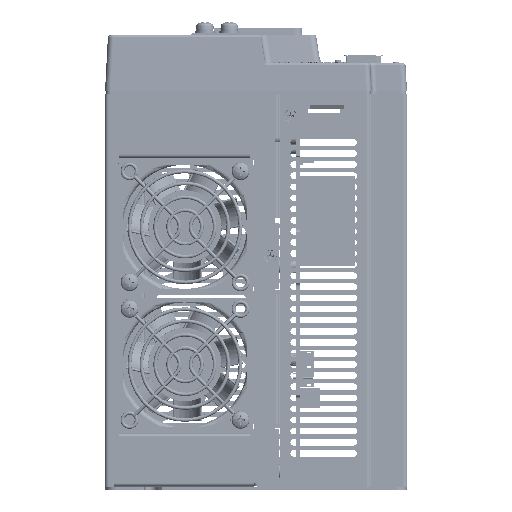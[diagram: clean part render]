
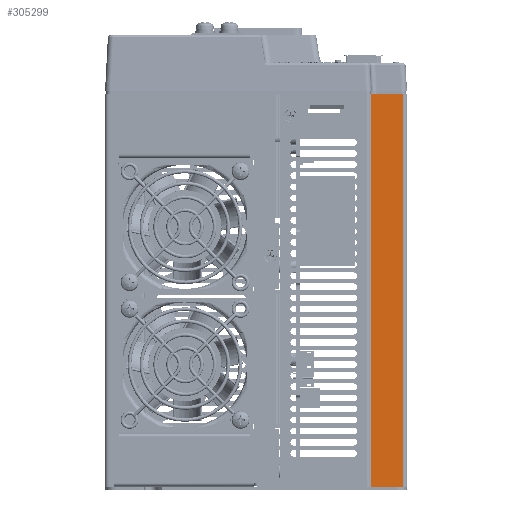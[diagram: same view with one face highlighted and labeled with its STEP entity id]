
A CAD part, left-side view. The second image highlights one B-rep face of the part: STEP entity #305299.
In plain terms, the highlighted planar face has unit normal (-1, 0, 0).
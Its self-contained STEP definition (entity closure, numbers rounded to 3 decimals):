
#280793=CARTESIAN_POINT('',(-113.882,650.622,889.177));
#280794=VERTEX_POINT('',#280793);
#280811=CARTESIAN_POINT('',(-113.882,649.622,889.177));
#280812=VERTEX_POINT('',#280811);
#280819=CARTESIAN_POINT('',(-113.882,650.622,889.177));
#280820=DIRECTION('',(0.0,-1.0,0.0));
#280821=VECTOR('',#280820,1.);
#280822=LINE('',#280819,#280821);
#280823=EDGE_CURVE('',#280794,#280812,#280822,.T.);
#281026=CARTESIAN_POINT('',(-113.882,662.289,1066.177));
#281027=VERTEX_POINT('',#281026);
#281040=CARTESIAN_POINT('',(-113.882,648.722,1066.177));
#281041=VERTEX_POINT('',#281040);
#281042=CARTESIAN_POINT('',(-113.882,648.722,1066.177));
#281043=DIRECTION('',(0.0,1.0,0.0));
#281044=VECTOR('',#281043,13.568);
#281045=LINE('',#281042,#281044);
#281046=EDGE_CURVE('',#281041,#281027,#281045,.T.);
#304770=CARTESIAN_POINT('',(-113.882,649.622,887.677));
#304771=VERTEX_POINT('',#304770);
#304778=CARTESIAN_POINT('',(-113.882,649.622,889.177));
#304779=DIRECTION('',(0.0,0.0,-1.0));
#304780=VECTOR('',#304779,1.5);
#304781=LINE('',#304778,#304780);
#304782=EDGE_CURVE('',#280812,#304771,#304781,.T.);
#305194=CARTESIAN_POINT('',(-113.882,663.522,889.177));
#305195=VERTEX_POINT('',#305194);
#305203=CARTESIAN_POINT('',(-113.882,663.522,1066.177));
#305204=VERTEX_POINT('',#305203);
#305205=CARTESIAN_POINT('',(-113.882,663.522,1066.177));
#305206=DIRECTION('',(0.0,0.0,-1.0));
#305207=VECTOR('',#305206,177.0);
#305208=LINE('',#305205,#305207);
#305209=EDGE_CURVE('',#305204,#305195,#305208,.T.);
#305262=CARTESIAN_POINT('',(-113.882,647.122,887.677));
#305263=DIRECTION('',(-1.0,0.0,0.0));
#305264=DIRECTION('',(0.0,0.0,-1.0));
#305265=AXIS2_PLACEMENT_3D('',#305262,#305263,#305264);
#305266=PLANE('',#305265);
#305267=ORIENTED_EDGE('',*,*,#304782,.T.);
#305268=CARTESIAN_POINT('',(-113.882,648.722,887.677));
#305269=VERTEX_POINT('',#305268);
#305270=CARTESIAN_POINT('',(-113.882,649.622,887.677));
#305271=DIRECTION('',(0.0,-1.0,0.0));
#305272=VECTOR('',#305271,0.9);
#305273=LINE('',#305270,#305272);
#305274=EDGE_CURVE('',#304771,#305269,#305273,.T.);
#305275=ORIENTED_EDGE('',*,*,#305274,.T.);
#305276=CARTESIAN_POINT('',(-113.882,648.722,1066.177));
#305277=DIRECTION('',(0.0,0.0,-1.0));
#305278=VECTOR('',#305277,178.5);
#305279=LINE('',#305276,#305278);
#305280=EDGE_CURVE('',#281041,#305269,#305279,.T.);
#305281=ORIENTED_EDGE('',*,*,#305280,.F.);
#305282=ORIENTED_EDGE('',*,*,#281046,.T.);
#305283=CARTESIAN_POINT('',(-113.882,663.522,1066.177));
#305284=DIRECTION('',(0.0,-1.0,0.0));
#305285=VECTOR('',#305284,1.232);
#305286=LINE('',#305283,#305285);
#305287=EDGE_CURVE('',#305204,#281027,#305286,.T.);
#305288=ORIENTED_EDGE('',*,*,#305287,.F.);
#305289=ORIENTED_EDGE('',*,*,#305209,.T.);
#305290=CARTESIAN_POINT('',(-113.882,650.622,889.177));
#305291=DIRECTION('',(0.0,1.0,0.0));
#305292=VECTOR('',#305291,12.9);
#305293=LINE('',#305290,#305292);
#305294=EDGE_CURVE('',#280794,#305195,#305293,.T.);
#305295=ORIENTED_EDGE('',*,*,#305294,.F.);
#305296=ORIENTED_EDGE('',*,*,#280823,.T.);
#305297=EDGE_LOOP('',(#305267,#305275,#305281,#305282,#305288,#305289,#305295,#305296));
#305298=FACE_OUTER_BOUND('',#305297,.T.);
#305299=ADVANCED_FACE('',(#305298),#305266,.T.);
